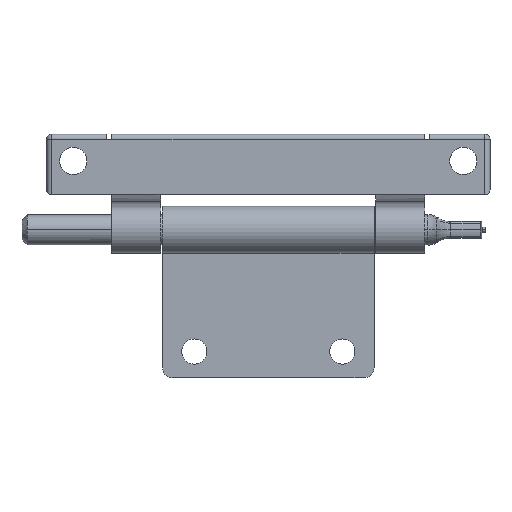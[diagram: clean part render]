
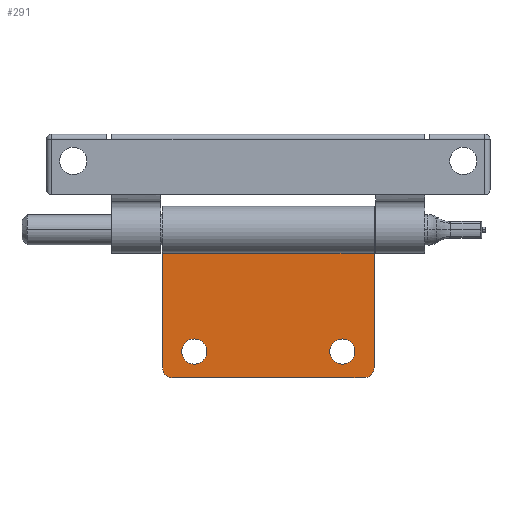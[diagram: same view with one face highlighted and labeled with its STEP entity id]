
A CAD part, top view. The second image highlights one B-rep face of the part: STEP entity #291.
In plain terms, the highlighted planar face has unit normal (0, 0, 1).
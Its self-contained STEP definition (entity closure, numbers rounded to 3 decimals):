
#53 = CARTESIAN_POINT ( 'NONE',  ( 21., -29.35, -3.25 ) ) ;
#73 = CIRCLE ( 'NONE', #3920, 2.5 ) ;
#128 = VECTOR ( 'NONE', #3400, 1000. ) ;
#141 = DIRECTION ( 'NONE',  ( 0., 0., -1. ) ) ;
#172 = CIRCLE ( 'NONE', #2782, 2.5 ) ;
#187 = ORIENTED_EDGE ( 'NONE', *, *, #3063, .T. ) ;
#286 = EDGE_CURVE ( 'NONE', #4235, #3876, #4481, .T. ) ;
#291 = ADVANCED_FACE ( 'NONE', ( #1741, #2811, #296 ), #3110, .F. ) ;
#296 = FACE_OUTER_BOUND ( 'NONE', #3444, .T. ) ;
#313 = VERTEX_POINT ( 'NONE', #2466 ) ;
#327 = DIRECTION ( 'NONE',  ( 0., 0., 1. ) ) ;
#336 = LINE ( 'NONE', #53, #2712 ) ;
#371 = VERTEX_POINT ( 'NONE', #1353 ) ;
#395 = ORIENTED_EDGE ( 'NONE', *, *, #4514, .T. ) ;
#479 = EDGE_CURVE ( 'NONE', #1795, #2615, #336, .T. ) ;
#603 = ORIENTED_EDGE ( 'NONE', *, *, #1675, .T. ) ;
#614 = DIRECTION ( 'NONE',  ( 0., 0., -1. ) ) ;
#635 = CARTESIAN_POINT ( 'NONE',  ( 21., 0., -3.25 ) ) ;
#665 = CARTESIAN_POINT ( 'NONE',  ( 21., 0., -3.25 ) ) ;
#693 = ORIENTED_EDGE ( 'NONE', *, *, #2437, .T. ) ;
#700 = CARTESIAN_POINT ( 'NONE',  ( 21., -27.35, -3.25 ) ) ;
#737 = ORIENTED_EDGE ( 'NONE', *, *, #3688, .F. ) ;
#792 = CARTESIAN_POINT ( 'NONE',  ( -12.2, -24.15, -3.25 ) ) ;
#1019 = CARTESIAN_POINT ( 'NONE',  ( 14.7, -24.15, -3.25 ) ) ;
#1083 = AXIS2_PLACEMENT_3D ( 'NONE', #2455, #327, #3147 ) ;
#1085 = CARTESIAN_POINT ( 'NONE',  ( -21., 0., -3.25 ) ) ;
#1091 = EDGE_LOOP ( 'NONE', ( #1454, #603 ) ) ;
#1108 = DIRECTION ( 'NONE',  ( 1., 0., 0. ) ) ;
#1134 = EDGE_CURVE ( 'NONE', #313, #2615, #1462, .T. ) ;
#1151 = DIRECTION ( 'NONE',  ( 0., 0., -1. ) ) ;
#1353 = CARTESIAN_POINT ( 'NONE',  ( 12.2, -24.15, -3.25 ) ) ;
#1375 = DIRECTION ( 'NONE',  ( 1., 0., 0. ) ) ;
#1454 = ORIENTED_EDGE ( 'NONE', *, *, #2151, .T. ) ;
#1462 = CIRCLE ( 'NONE', #4191, 2. ) ;
#1463 = CARTESIAN_POINT ( 'NONE',  ( -19., -27.35, -3.25 ) ) ;
#1625 = LINE ( 'NONE', #3423, #128 ) ;
#1635 = CARTESIAN_POINT ( 'NONE',  ( -17.2, -24.15, -3.25 ) ) ;
#1675 = EDGE_CURVE ( 'NONE', #371, #4470, #172, .T. ) ;
#1676 = VERTEX_POINT ( 'NONE', #792 ) ;
#1741 = FACE_BOUND ( 'NONE', #4249, .T. ) ;
#1795 = VERTEX_POINT ( 'NONE', #3090 ) ;
#1929 = CARTESIAN_POINT ( 'NONE',  ( 17.2, -24.15, -3.25 ) ) ;
#2151 = EDGE_CURVE ( 'NONE', #4470, #371, #73, .T. ) ;
#2170 = AXIS2_PLACEMENT_3D ( 'NONE', #2588, #2954, #4352 ) ;
#2236 = ORIENTED_EDGE ( 'NONE', *, *, #479, .F. ) ;
#2277 = CARTESIAN_POINT ( 'NONE',  ( -14.7, -24.15, -3.25 ) ) ;
#2279 = VECTOR ( 'NONE', #3544, 1000. ) ;
#2414 = CARTESIAN_POINT ( 'NONE',  ( -19., -29.35, -3.25 ) ) ;
#2417 = CARTESIAN_POINT ( 'NONE',  ( 21., 0., -3.25 ) ) ;
#2437 = EDGE_CURVE ( 'NONE', #1795, #3401, #2863, .T. ) ;
#2455 = CARTESIAN_POINT ( 'NONE',  ( 19., -27.35, -3.25 ) ) ;
#2466 = CARTESIAN_POINT ( 'NONE',  ( -21., -27.35, -3.25 ) ) ;
#2535 = ORIENTED_EDGE ( 'NONE', *, *, #1134, .T. ) ;
#2560 = VECTOR ( 'NONE', #3494, 1000. ) ;
#2588 = CARTESIAN_POINT ( 'NONE',  ( -14.7, -24.15, -3.25 ) ) ;
#2615 = VERTEX_POINT ( 'NONE', #2414 ) ;
#2631 = DIRECTION ( 'NONE',  ( 1., 0., 0. ) ) ;
#2712 = VECTOR ( 'NONE', #3597, 1000. ) ;
#2782 = AXIS2_PLACEMENT_3D ( 'NONE', #4334, #1151, #3303 ) ;
#2811 = FACE_BOUND ( 'NONE', #1091, .T. ) ;
#2863 = CIRCLE ( 'NONE', #1083, 2. ) ;
#2876 = ORIENTED_EDGE ( 'NONE', *, *, #4330, .T. ) ;
#2954 = DIRECTION ( 'NONE',  ( 0., 0., -1. ) ) ;
#3035 = VERTEX_POINT ( 'NONE', #1635 ) ;
#3046 = CARTESIAN_POINT ( 'NONE',  ( -21., 0., -3.25 ) ) ;
#3063 = EDGE_CURVE ( 'NONE', #3876, #313, #3756, .T. ) ;
#3090 = CARTESIAN_POINT ( 'NONE',  ( 19., -29.35, -3.25 ) ) ;
#3110 = PLANE ( 'NONE',  #4390 ) ;
#3147 = DIRECTION ( 'NONE',  ( 1., 0., 0. ) ) ;
#3268 = ORIENTED_EDGE ( 'NONE', *, *, #286, .T. ) ;
#3303 = DIRECTION ( 'NONE',  ( 1., 0., 0. ) ) ;
#3400 = DIRECTION ( 'NONE',  ( 0., -1., 0. ) ) ;
#3401 = VERTEX_POINT ( 'NONE', #700 ) ;
#3423 = CARTESIAN_POINT ( 'NONE',  ( 21., 0., -3.25 ) ) ;
#3444 = EDGE_LOOP ( 'NONE', ( #2236, #693, #737, #3268, #187, #2535 ) ) ;
#3494 = DIRECTION ( 'NONE',  ( -1., 0., 0. ) ) ;
#3544 = DIRECTION ( 'NONE',  ( 0., -1., 0. ) ) ;
#3548 = DIRECTION ( 'NONE',  ( 1., 0., 0. ) ) ;
#3597 = DIRECTION ( 'NONE',  ( -1., 0., 0. ) ) ;
#3643 = AXIS2_PLACEMENT_3D ( 'NONE', #2277, #141, #2631 ) ;
#3644 = DIRECTION ( 'NONE',  ( 0., 0., 1. ) ) ;
#3688 = EDGE_CURVE ( 'NONE', #4235, #3401, #1625, .T. ) ;
#3756 = LINE ( 'NONE', #3046, #2279 ) ;
#3876 = VERTEX_POINT ( 'NONE', #1085 ) ;
#3920 = AXIS2_PLACEMENT_3D ( 'NONE', #1019, #614, #3548 ) ;
#4137 = DIRECTION ( 'NONE',  ( 0., 0., -1. ) ) ;
#4166 = CIRCLE ( 'NONE', #2170, 2.5 ) ;
#4191 = AXIS2_PLACEMENT_3D ( 'NONE', #1463, #3644, #1108 ) ;
#4235 = VERTEX_POINT ( 'NONE', #635 ) ;
#4249 = EDGE_LOOP ( 'NONE', ( #2876, #395 ) ) ;
#4330 = EDGE_CURVE ( 'NONE', #1676, #3035, #4166, .T. ) ;
#4334 = CARTESIAN_POINT ( 'NONE',  ( 14.7, -24.15, -3.25 ) ) ;
#4352 = DIRECTION ( 'NONE',  ( 1., 0., 0. ) ) ;
#4390 = AXIS2_PLACEMENT_3D ( 'NONE', #665, #4137, #1375 ) ;
#4453 = CIRCLE ( 'NONE', #3643, 2.5 ) ;
#4470 = VERTEX_POINT ( 'NONE', #1929 ) ;
#4481 = LINE ( 'NONE', #2417, #2560 ) ;
#4514 = EDGE_CURVE ( 'NONE', #3035, #1676, #4453, .T. ) ;
